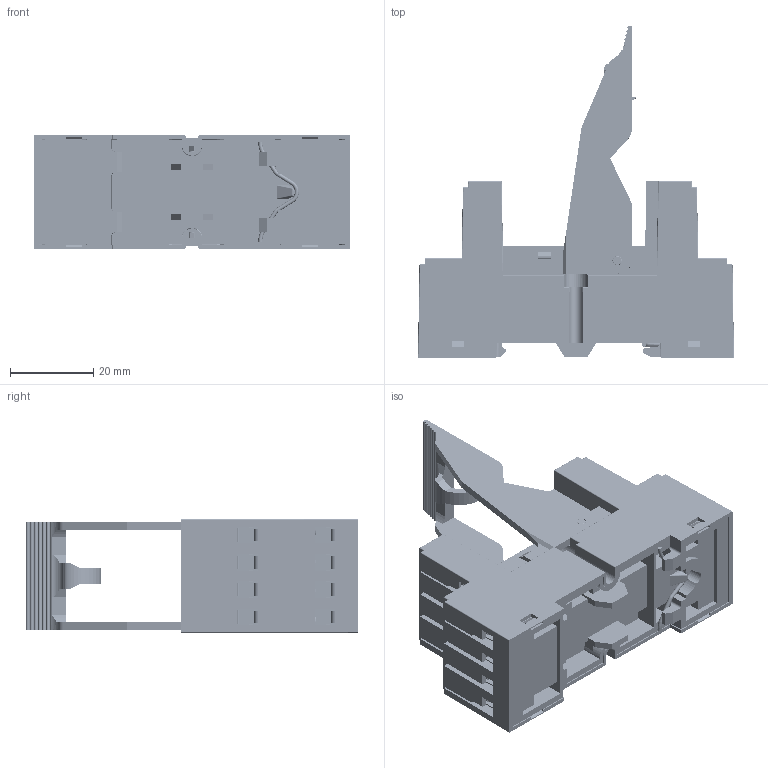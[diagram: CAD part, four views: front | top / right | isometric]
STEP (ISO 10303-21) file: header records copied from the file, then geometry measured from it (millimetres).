
FILE_DESCRIPTION(/* description */ (''),/* implementation_level */ '2;1');
FILE_NAME(/* name */ '18F-4Z-C4.stp',/* time_stamp */ '2019-03-22T13:48:35+08:00',/* author */ (''),/* organization */ (''),/* preprocessor_version */ 'ST-DEVELOPER v16.7',/* originating_system */ 'SIEMENS PLM Software NX 12.0',/* authorisation */ '');
FILE_SCHEMA (('AUTOMOTIVE_DESIGN { 1 0 10303 214 3 1 1 1 }'));
Products named in the file (16): HT8.205.007-3; JinxianKo; HT7.730.074; HT7.730.073; HT7.730.072; HT7.730.071; HT7.730.070; HT7.730.069; HT7.730.068; HT7.730.067; HT7.730.066; HT7.730.065; M3X10.7; HT7.810.018-1; HT7.814.008; 18F-4Z-C4
Assembly tree (47 placements, depth 2):
  18F-4Z-C4
    HT7.814.008
    HT7.810.018-1
    M3X10.7  x14
    HT7.730.065
    HT7.730.066
    HT7.730.067
    HT7.730.068
    HT7.730.069
    HT7.730.070
    HT7.730.071  x2
    HT7.730.072  x2
    HT7.730.073  x2
    HT7.730.074  x2
    JinxianKo  x16
    HT8.205.007-3
Bounding box: 75.83 x 79.57 x 27.2 mm (x, y, z)
Volume: 33174 mm3; surface area: 58361.6 mm2
Topology: 48 solids, 48 shells, 6657 faces, 18578 edges, 11890 vertices
Faces by surface type: plane 4932, cylinder 1214, sphere 228, extrusion 162, cone 67, bspline 30, torus 24
Full cylindrical faces by diameter (mm): 1 x8, 1.3 x4, 1.8 x1, 2 x14, 2.18 x2, 2.3 x2, 2.5 x198, 3 x14, 3.15 x14, 3.6 x18, 3.7 x16, 4.5 x1, 4.9 x14, 5.3 x14
Entity records: 154808 total; most frequent: CARTESIAN_POINT 32821, ORIENTED_EDGE 23374, DIRECTION 21467, EDGE_CURVE 11687, VECTOR 8887, LINE 8759, VERTEX_POINT 7641, AXIS2_PLACEMENT_3D 6290
